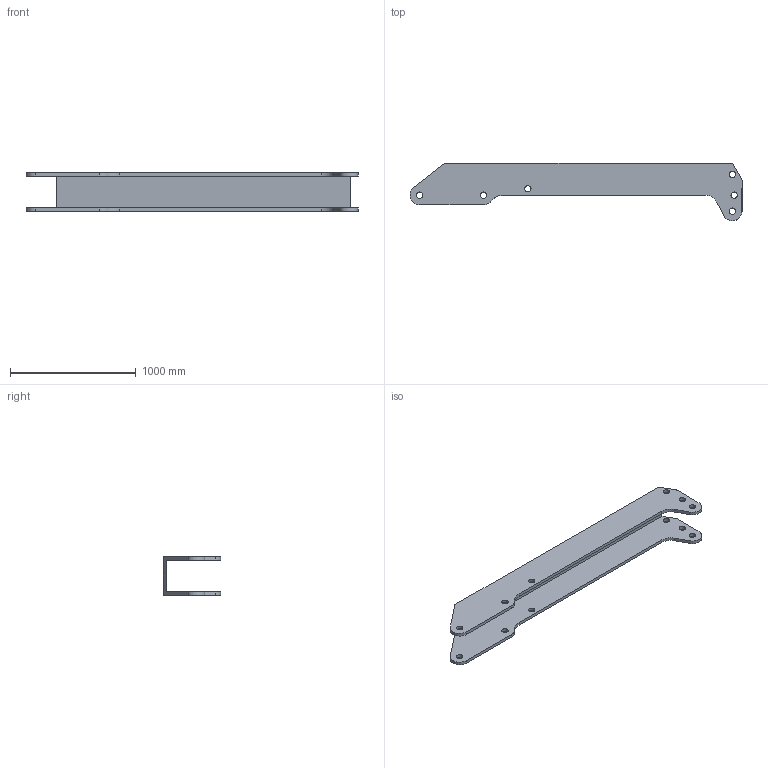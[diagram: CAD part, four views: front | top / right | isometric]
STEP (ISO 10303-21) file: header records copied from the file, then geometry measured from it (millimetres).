
FILE_DESCRIPTION(/* description */ ('PART DESCRIPTION (LINE 1)'),/* implementation_level */ '2;1');
FILE_NAME(/* name */ 'Link2.stp',/* time_stamp */ '2024-04-02T17:35:32+02:00',/* author */ ('JL'),/* organization */ (''),/* preprocessor_version */ 'ST-DEVELOPER v19.2',/* originating_system */ 'Autodesk Inventor 2023',/* authorisation */ '');
FILE_SCHEMA (('AUTOMOTIVE_DESIGN { 1 0 10303 214 3 1 1 }'));
Length unit declared in the file: inch
Products named in the file (1): Link2
Bounding box: 2638.19 x 456.99 x 304.8 mm (x, y, z)
Volume: 50780311 mm3; surface area: 4248479.7 mm2
Topology: 1 solids, 1 shells, 40 faces, 114 edges, 76 vertices
Faces by surface type: cylinder 24, plane 16
Full cylindrical faces by diameter (mm): 50.8 x12
Entity records: 1432 total; most frequent: DIRECTION 246, CARTESIAN_POINT 232, ORIENTED_EDGE 228, EDGE_CURVE 114, AXIS2_PLACEMENT_3D 90, VERTEX_POINT 76, LINE 66, VECTOR 66
